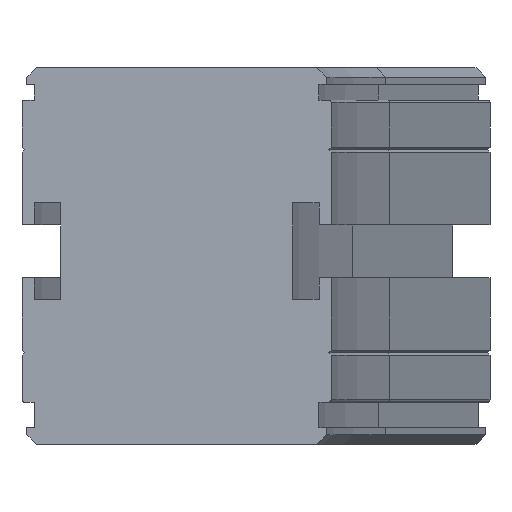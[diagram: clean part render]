
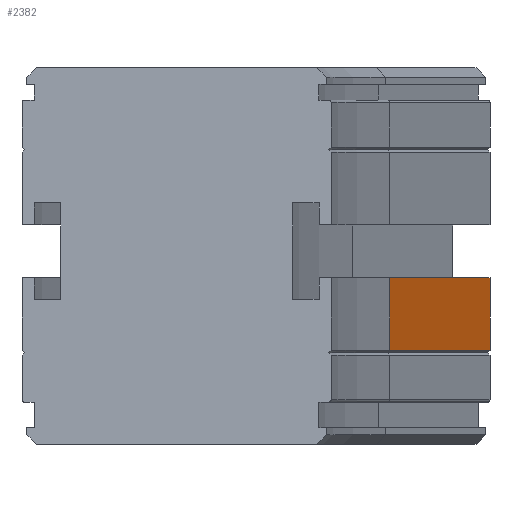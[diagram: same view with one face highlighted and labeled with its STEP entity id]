
A CAD part, left-side view. The second image highlights one B-rep face of the part: STEP entity #2382.
In plain terms, the highlighted planar face has unit normal (-0.259, -0.966, 0).
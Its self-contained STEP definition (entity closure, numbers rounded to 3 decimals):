
#2326=CARTESIAN_POINT('',(249.672,-64.87,-58.5));
#2327=VERTEX_POINT('',#2326);
#2334=CARTESIAN_POINT('',(172.398,-44.164,-58.5));
#2335=VERTEX_POINT('',#2334);
#2336=CARTESIAN_POINT('',(172.398,-44.164,-58.5));
#2337=DIRECTION('',(0.966,-0.259,0.0));
#2338=VECTOR('',#2337,80.);
#2339=LINE('',#2336,#2338);
#2340=EDGE_CURVE('',#2335,#2327,#2339,.T.);
#2352=CARTESIAN_POINT('',(172.398,-44.164,-58.5));
#2353=DIRECTION('',(-0.259,-0.966,0.));
#2354=DIRECTION('',(0.0,0.0,-1.0));
#2355=AXIS2_PLACEMENT_3D('',#2352,#2353,#2354);
#2356=PLANE('',#2355);
#2357=CARTESIAN_POINT('',(249.672,-64.87,-43.5));
#2358=VERTEX_POINT('',#2357);
#2359=CARTESIAN_POINT('',(249.672,-64.87,-58.5));
#2360=DIRECTION('',(0.0,0.0,1.0));
#2361=VECTOR('',#2360,15.);
#2362=LINE('',#2359,#2361);
#2363=EDGE_CURVE('',#2327,#2358,#2362,.T.);
#2364=ORIENTED_EDGE('',*,*,#2363,.T.);
#2365=CARTESIAN_POINT('',(172.398,-44.164,-43.5));
#2366=VERTEX_POINT('',#2365);
#2367=CARTESIAN_POINT('',(172.398,-44.164,-43.5));
#2368=DIRECTION('',(0.966,-0.259,0.0));
#2369=VECTOR('',#2368,80.);
#2370=LINE('',#2367,#2369);
#2371=EDGE_CURVE('',#2366,#2358,#2370,.T.);
#2372=ORIENTED_EDGE('',*,*,#2371,.F.);
#2373=CARTESIAN_POINT('',(172.398,-44.164,-58.5));
#2374=DIRECTION('',(0.0,0.0,1.0));
#2375=VECTOR('',#2374,15.);
#2376=LINE('',#2373,#2375);
#2377=EDGE_CURVE('',#2335,#2366,#2376,.T.);
#2378=ORIENTED_EDGE('',*,*,#2377,.F.);
#2379=ORIENTED_EDGE('',*,*,#2340,.T.);
#2380=EDGE_LOOP('',(#2364,#2372,#2378,#2379));
#2381=FACE_OUTER_BOUND('',#2380,.T.);
#2382=ADVANCED_FACE('',(#2381),#2356,.T.);
